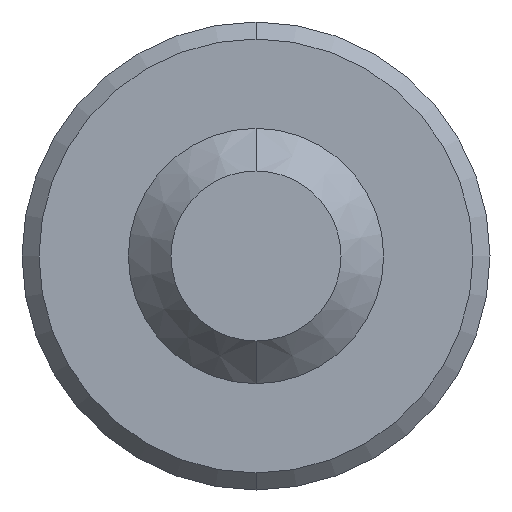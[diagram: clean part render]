
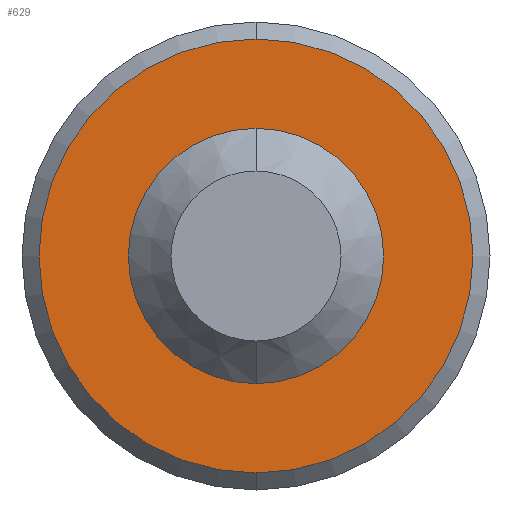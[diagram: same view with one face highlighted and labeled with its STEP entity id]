
A CAD part, front view. The second image highlights one B-rep face of the part: STEP entity #629.
In plain terms, the highlighted planar face has unit normal (0, -1, 0).
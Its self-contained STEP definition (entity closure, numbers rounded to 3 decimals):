
#13 = EDGE_CURVE ( 'NONE', #168, #159, #296, .T. ) ;
#18 = EDGE_CURVE ( 'NONE', #176, #151, #301, .T. ) ;
#25 = EDGE_CURVE ( 'NONE', #159, #168, #323, .T. ) ;
#42 = AXIS2_PLACEMENT_3D ( 'NONE', #415, #416, #397 ) ;
#54 = EDGE_CURVE ( 'NONE', #151, #176, #363, .T. ) ;
#67 = AXIS2_PLACEMENT_3D ( 'NONE', #457, #430, #461 ) ;
#71 = AXIS2_PLACEMENT_3D ( 'NONE', #487, #482, #493 ) ;
#91 = AXIS2_PLACEMENT_3D ( 'NONE', #522, #524, #590 ) ;
#92 = AXIS2_PLACEMENT_3D ( 'NONE', #418, #414, #422 ) ;
#106 = FACE_OUTER_BOUND ( 'NONE', #184, .T. ) ;
#119 = FACE_BOUND ( 'NONE', #191, .T. ) ;
#151 = VERTEX_POINT ( 'NONE', #514 ) ;
#159 = VERTEX_POINT ( 'NONE', #470 ) ;
#168 = VERTEX_POINT ( 'NONE', #477 ) ;
#176 = VERTEX_POINT ( 'NONE', #516 ) ;
#184 = EDGE_LOOP ( 'NONE', ( #233, #216 ) ) ;
#191 = EDGE_LOOP ( 'NONE', ( #198, #194 ) ) ;
#194 = ORIENTED_EDGE ( 'NONE', *, *, #25, .T. ) ;
#198 = ORIENTED_EDGE ( 'NONE', *, *, #13, .T. ) ;
#216 = ORIENTED_EDGE ( 'NONE', *, *, #18, .T. ) ;
#233 = ORIENTED_EDGE ( 'NONE', *, *, #54, .T. ) ;
#296 = CIRCLE ( 'NONE', #42, 1.5 ) ;
#301 = CIRCLE ( 'NONE', #92, 2.55 ) ;
#323 = CIRCLE ( 'NONE', #67, 1.5 ) ;
#363 = CIRCLE ( 'NONE', #71, 2.55 ) ;
#397 = DIRECTION ( 'NONE',  ( -1., 0., 0. ) ) ;
#414 = DIRECTION ( 'NONE',  ( 0., -1., 0. ) ) ;
#415 = CARTESIAN_POINT ( 'NONE',  ( 1.5, 6., 0. ) ) ;
#416 = DIRECTION ( 'NONE',  ( 0., 1., 0. ) ) ;
#418 = CARTESIAN_POINT ( 'NONE',  ( 1.5, 6., 0. ) ) ;
#422 = DIRECTION ( 'NONE',  ( 1., 0., 0. ) ) ;
#430 = DIRECTION ( 'NONE',  ( 0., 1., 0. ) ) ;
#457 = CARTESIAN_POINT ( 'NONE',  ( 1.5, 6., 0. ) ) ;
#461 = DIRECTION ( 'NONE',  ( -1., 0., 0. ) ) ;
#470 = CARTESIAN_POINT ( 'NONE',  ( 3., 6., 0. ) ) ;
#477 = CARTESIAN_POINT ( 'NONE',  ( 0., 6., 0. ) ) ;
#482 = DIRECTION ( 'NONE',  ( 0., -1., 0. ) ) ;
#487 = CARTESIAN_POINT ( 'NONE',  ( 1.5, 6., 0. ) ) ;
#493 = DIRECTION ( 'NONE',  ( 1., 0., 0. ) ) ;
#514 = CARTESIAN_POINT ( 'NONE',  ( 1.5, 6., 2.55 ) ) ;
#516 = CARTESIAN_POINT ( 'NONE',  ( 1.5, 6., -2.55 ) ) ;
#521 = PLANE ( 'NONE',  #91 ) ;
#522 = CARTESIAN_POINT ( 'NONE',  ( 0., 6., 0. ) ) ;
#524 = DIRECTION ( 'NONE',  ( 0., -1., 0. ) ) ;
#590 = DIRECTION ( 'NONE',  ( 1., 0., 0. ) ) ;
#629 = ADVANCED_FACE ( 'NONE', ( #106, #119 ), #521, .T. ) ;
